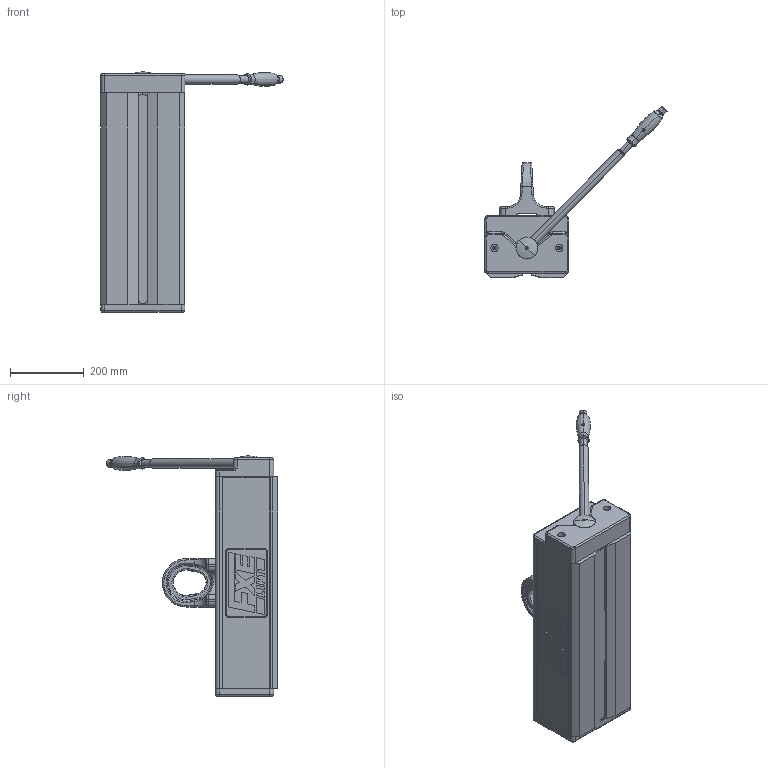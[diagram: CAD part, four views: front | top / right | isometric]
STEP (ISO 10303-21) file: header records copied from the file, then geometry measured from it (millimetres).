
FILE_DESCRIPTION (( 'STEP AP214' ), '1' );
FILE_NAME ('FX 3000.STEP', '2016-06-15T08:49:08', ( '' ), ( '' ), 'SwSTEP 2.0', 'SolidWorks 2013', '' );
FILE_SCHEMA (( 'AUTOMOTIVE_DESIGN' ));
Length unit declared in the file: millimetre
Products named in the file (1): FX 3000
Bounding box: 494.97 x 465.52 x 652.99 mm (x, y, z)
Surface area: 797287.8 mm2 (no closed solid volume)
Topology: 0 solids, 30 shells, 589 faces, 1805 edges, 1190 vertices
Faces by surface type: plane 288, cylinder 130, bspline 95, torus 38, cone 34, sphere 4
Entity records: 38616 total; most frequent: CARTESIAN_POINT 17009, ORIENTED_EDGE 3079, DIRECTION 2889, EDGE_CURVE 1774, VERTEX_POINT 1190, LINE 1017, VECTOR 1017, AXIS2_PLACEMENT_3D 936
